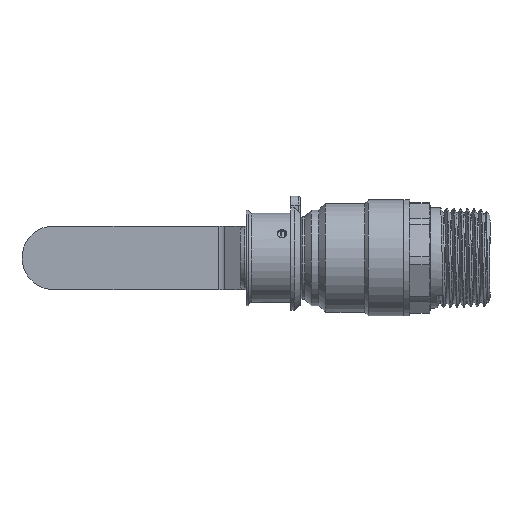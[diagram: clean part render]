
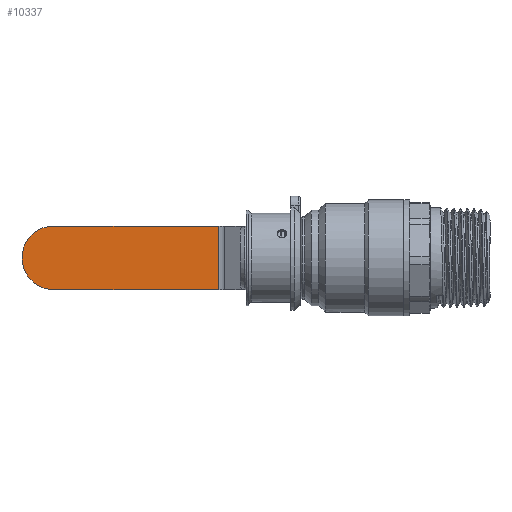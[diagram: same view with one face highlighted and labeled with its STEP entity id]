
A CAD part, front view. The second image highlights one B-rep face of the part: STEP entity #10337.
In plain terms, the highlighted planar face has unit normal (0, -1, 0) as drawn and (0, 0, -1) by its records, which use the part's own axes.
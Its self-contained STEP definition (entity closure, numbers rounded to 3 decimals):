
#3139 = DIRECTION ( 'NONE',  ( 1., 0., 0. ) ) ;
#3409 = LINE ( 'NONE', #21130, #41987 ) ;
#5053 = ORIENTED_EDGE ( 'NONE', *, *, #21089, .F. ) ;
#5612 = VECTOR ( 'NONE', #25718, 1000. ) ;
#6511 = CARTESIAN_POINT ( 'NONE',  ( 80.604, 0., 14.579 ) ) ;
#6829 = DIRECTION ( 'NONE',  ( -1., 0., 0. ) ) ;
#7538 = PLANE ( 'NONE',  #37485 ) ;
#10337 = ADVANCED_FACE ( 'NONE', ( #20702 ), #7538, .T. ) ;
#11064 = ORIENTED_EDGE ( 'NONE', *, *, #41253, .T. ) ;
#11070 = VERTEX_POINT ( 'NONE', #19251 ) ;
#11262 = ORIENTED_EDGE ( 'NONE', *, *, #20839, .F. ) ;
#13408 = DIRECTION ( 'NONE',  ( 0., 0., -1. ) ) ;
#14305 = CARTESIAN_POINT ( 'NONE',  ( 36.668, 8.5, 14.579 ) ) ;
#15153 = VERTEX_POINT ( 'NONE', #27239 ) ;
#16108 = EDGE_CURVE ( 'NONE', #30144, #15153, #22869, .T. ) ;
#18495 = CARTESIAN_POINT ( 'NONE',  ( 36.668, 8.5, 14.579 ) ) ;
#18895 = CARTESIAN_POINT ( 'NONE',  ( 80.604, 0., 14.579 ) ) ;
#19251 = CARTESIAN_POINT ( 'NONE',  ( 80.604, -8.5, 14.579 ) ) ;
#20702 = FACE_OUTER_BOUND ( 'NONE', #26318, .T. ) ;
#20839 = EDGE_CURVE ( 'NONE', #30144, #36008, #23802, .T. ) ;
#21089 = EDGE_CURVE ( 'NONE', #36008, #11070, #3409, .T. ) ;
#21130 = CARTESIAN_POINT ( 'NONE',  ( 36.668, -8.5, 14.579 ) ) ;
#22749 = DIRECTION ( 'NONE',  ( -1., 0., 0. ) ) ;
#22869 = LINE ( 'NONE', #42452, #29457 ) ;
#23802 = LINE ( 'NONE', #18495, #5612 ) ;
#24164 = AXIS2_PLACEMENT_3D ( 'NONE', #18895, #43718, #22749 ) ;
#24199 = CIRCLE ( 'NONE', #24164, 8.5 ) ;
#25718 = DIRECTION ( 'NONE',  ( 0., -1., 0. ) ) ;
#26318 = EDGE_LOOP ( 'NONE', ( #39791, #28851, #11064, #5053, #11262 ) ) ;
#27239 = CARTESIAN_POINT ( 'NONE',  ( 80.604, 8.5, 14.579 ) ) ;
#28134 = CIRCLE ( 'NONE', #43892, 8.5 ) ;
#28473 = DIRECTION ( 'NONE',  ( 0., 0., -1. ) ) ;
#28851 = ORIENTED_EDGE ( 'NONE', *, *, #36169, .T. ) ;
#29457 = VECTOR ( 'NONE', #35524, 1000. ) ;
#30144 = VERTEX_POINT ( 'NONE', #32832 ) ;
#31937 = CARTESIAN_POINT ( 'NONE',  ( 36.668, -8.5, 14.579 ) ) ;
#32832 = CARTESIAN_POINT ( 'NONE',  ( 36.668, 8.5, 14.579 ) ) ;
#35283 = CARTESIAN_POINT ( 'NONE',  ( 89.104, 0., 14.579 ) ) ;
#35524 = DIRECTION ( 'NONE',  ( 1., 0., 0. ) ) ;
#36008 = VERTEX_POINT ( 'NONE', #31937 ) ;
#36169 = EDGE_CURVE ( 'NONE', #15153, #40118, #28134, .T. ) ;
#37485 = AXIS2_PLACEMENT_3D ( 'NONE', #14305, #28473, #37862 ) ;
#37862 = DIRECTION ( 'NONE',  ( -1., 0., 0. ) ) ;
#39791 = ORIENTED_EDGE ( 'NONE', *, *, #16108, .T. ) ;
#40118 = VERTEX_POINT ( 'NONE', #35283 ) ;
#41253 = EDGE_CURVE ( 'NONE', #40118, #11070, #24199, .T. ) ;
#41987 = VECTOR ( 'NONE', #3139, 1000. ) ;
#42452 = CARTESIAN_POINT ( 'NONE',  ( 36.668, 8.5, 14.579 ) ) ;
#43718 = DIRECTION ( 'NONE',  ( 0., 0., -1. ) ) ;
#43892 = AXIS2_PLACEMENT_3D ( 'NONE', #6511, #13408, #6829 ) ;
